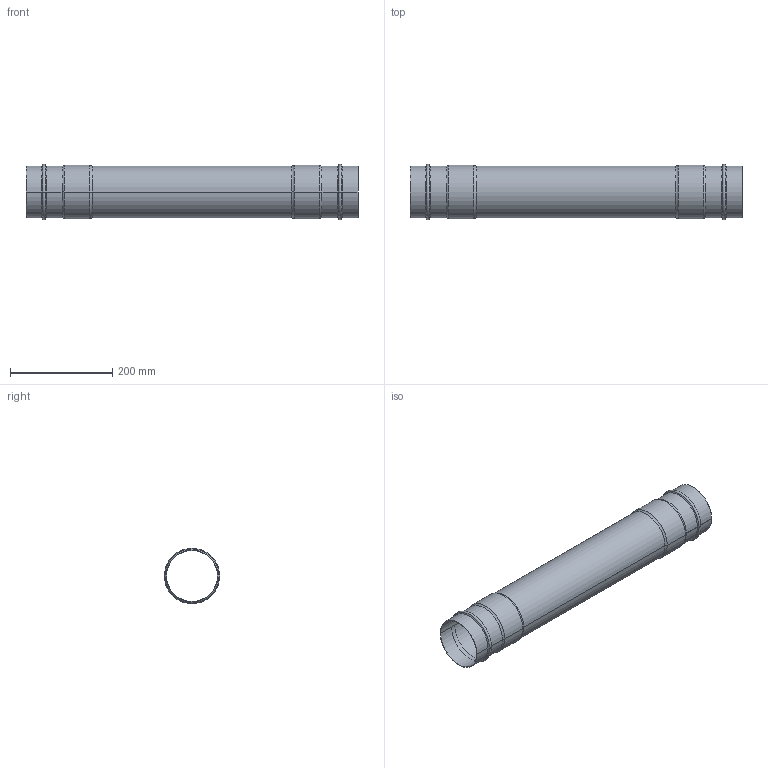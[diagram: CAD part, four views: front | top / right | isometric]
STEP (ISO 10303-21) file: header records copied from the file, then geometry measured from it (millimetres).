
FILE_DESCRIPTION((''),'2;1');
FILE_NAME('2016805500','2017-05-12T',('Administrator'),(''),'PRO/ENGINEER BY PARAMETRIC TECHNOLOGY CORPORATION, 2009360','PRO/ENGINEER BY PARAMETRIC TECHNOLOGY CORPORATION, 2009360','');
FILE_SCHEMA(('AUTOMOTIVE_DESIGN_CC2 { 1 2 10303 214 -1 1 5 2 }'));
Length unit declared in the file: millimetre
Products named in the file (1): 2016805500
Bounding box: 650 x 108.48 x 108.48 mm (x, y, z)
Volume: 287324.1 mm3; surface area: 415361.5 mm2
Topology: 1 solids, 1 shells, 38 faces, 76 edges, 40 vertices
Faces by surface type: cylinder 16, torus 12, cone 8, plane 2
Entity records: 1239 total; most frequent: DIRECTION 204, CARTESIAN_POINT 154, ORIENTED_EDGE 152, AXIS2_PLACEMENT_3D 90, PRESENTATION_STYLE_ASSIGNMENT 77, STYLED_ITEM 77, CURVE_STYLE 76, EDGE_CURVE 76
